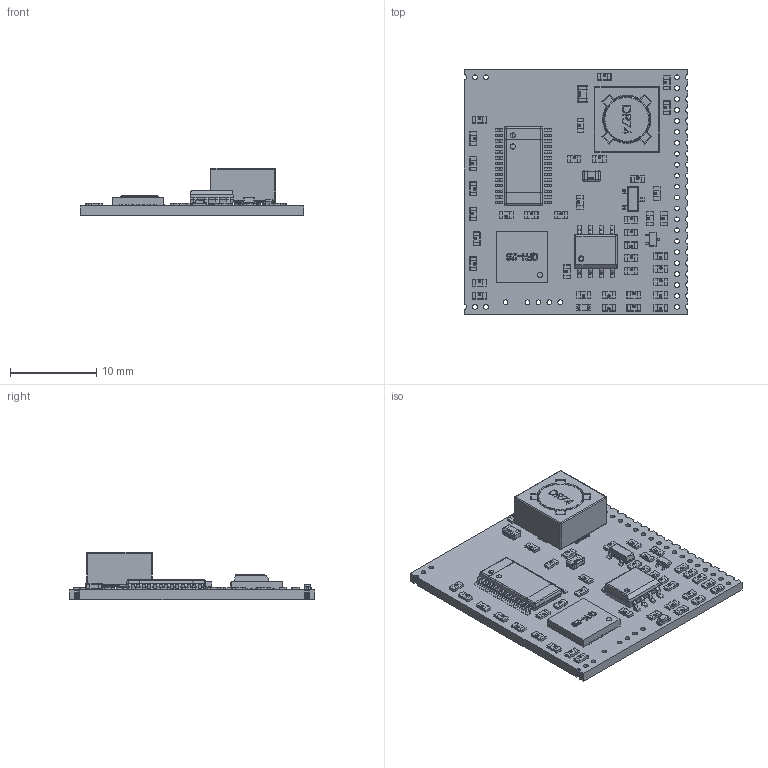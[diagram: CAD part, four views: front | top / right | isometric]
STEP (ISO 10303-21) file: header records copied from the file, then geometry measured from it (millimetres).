
FILE_DESCRIPTION(('Open CASCADE Model'),'2;1');
FILE_NAME('Open CASCADE Shape Model','2015-02-20T09:19:36',('Author'),( 'Open CASCADE'),'Open CASCADE STEP processor 6.2','Open CASCADE 6.2' ,'Unknown');
FILE_SCHEMA(('AUTOMOTIVE_DESIGN { 1 0 10303 214 1 1 1 1 }'));
Length unit declared in the file: millimetre
Products named in the file (96): PCB; Board; R25; User_Library-0603_SMD_Capacitor; R24; C17; C16; L2; User_Library-0805_SMD_Capacitor; C1; C2; C3; C4; C5; C6; C7; C8; C9; C10; C12; C11; D1; User_Library-LED_SMD0603; L1; DR74; R2; R3; R4; R5; R6; R7; R8; R9; R10; R11; R12; R13; R15; R14; R16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
Assembly tree (159 placements, depth 6):
  PCB
    Board
    R25
      User_Library-0603_SMD_Capacitor
    R24
      User_Library-0603_SMD_Capacitor
    C17
      User_Library-0603_SMD_Capacitor
    C16
      User_Library-0603_SMD_Capacitor
    L2
      User_Library-0805_SMD_Capacitor
    C1
      User_Library-0603_SMD_Capacitor
    C2
      User_Library-0603_SMD_Capacitor
    C3
      User_Library-0603_SMD_Capacitor
    C4
      User_Library-0603_SMD_Capacitor
    C5
      User_Library-0603_SMD_Capacitor
    C6
      User_Library-0603_SMD_Capacitor
    C7
      User_Library-0603_SMD_Capacitor
    C8
      User_Library-0603_SMD_Capacitor
    C9
      User_Library-0603_SMD_Capacitor
    C10
      User_Library-0603_SMD_Capacitor
    C12
      User_Library-0603_SMD_Capacitor
    C11
      User_Library-0603_SMD_Capacitor
    D1
      User_Library-LED_SMD0603
    L1
      DR74
    R2
      User_Library-0603_SMD_Capacitor
    R3
      User_Library-0805_SMD_Capacitor
    R4
      User_Library-0603_SMD_Capacitor
    R5
      User_Library-0603_SMD_Capacitor
    R6
      User_Library-0603_SMD_Capacitor
    R7
      User_Library-0603_SMD_Capacitor
    R8
      User_Library-0603_SMD_Capacitor
    R9
      User_Library-0603_SMD_Capacitor
    R10
      User_Library-0603_SMD_Capacitor
    R11
      User_Library-0603_SMD_Capacitor
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Bounding box: 26 x 28.54 x 5.47 mm (x, y, z)
Volume: 1218 mm3; surface area: 2608.9 mm2
Topology: 118 solids, 124 shells, 5738 faces, 14354 edges, 8736 vertices
Faces by surface type: plane 2527, bspline 1605, cylinder 1234, sphere 356, torus 16
Full cylindrical faces by diameter (mm): 0.55 x31
Entity records: 121482 total; most frequent: CARTESIAN_POINT 38214, DIRECTION 13368, LINE 8730, VECTOR 8730, ORIENTED_EDGE 8000, PCURVE 8000, DEFINITIONAL_REPRESENTATION 8000, EDGE_CURVE 4006
